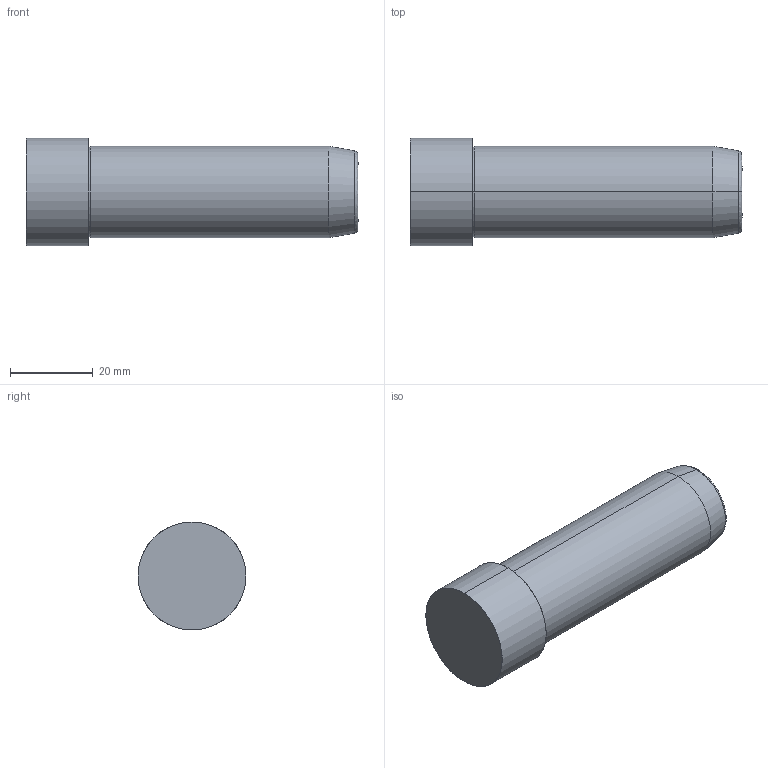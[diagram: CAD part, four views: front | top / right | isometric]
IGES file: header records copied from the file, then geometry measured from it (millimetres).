
Start section: SolidWorks IGES FILE using analytic representation for surfaces
Global section: file name: D:\zzzzz\Delta\D01 D\22\D01 D - 22x80.IGS; native system: SolidWorks 2004 by SolidWorks Corporation; preprocessor: Version 5.3; author: Hkn; date: 080327.145114; units: millimetre
Bounding box: 80 x 26 x 26 mm (x, y, z)
Surface area: 6694.7 mm2 (no closed solid volume)
Topology: 0 solids, 0 shells, 14 faces, 232 edges, 232 vertices
Faces by surface type: revolution 8, bspline 6
